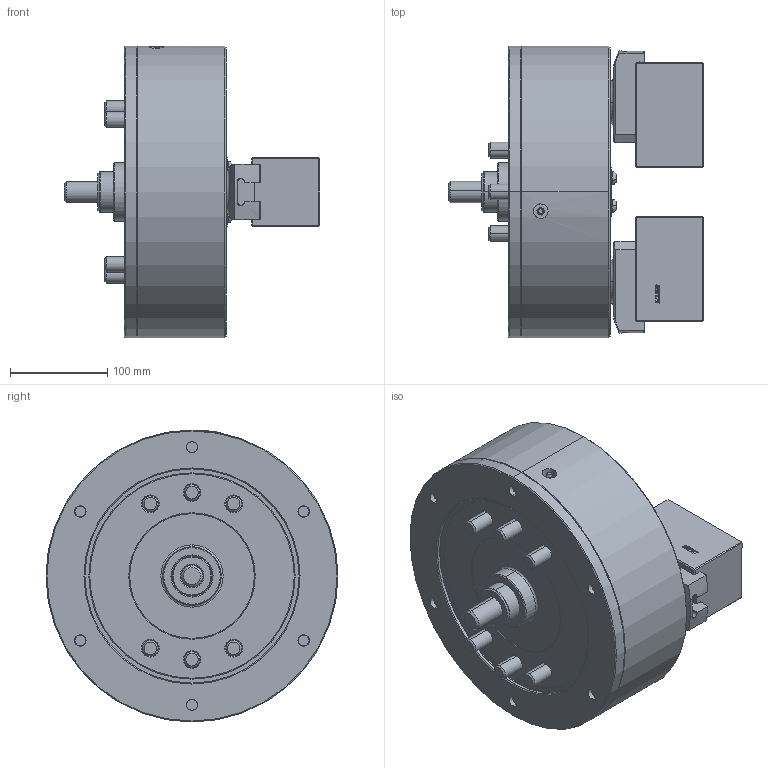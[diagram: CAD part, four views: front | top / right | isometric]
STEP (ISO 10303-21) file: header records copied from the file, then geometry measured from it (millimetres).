
FILE_DESCRIPTION (( 'STEP AP214' ), '1' );
FILE_NAME ('PWT12_CL_OD.STEP', '2019-10-23T00:03:02', ( '' ), ( '' ), 'SwSTEP 2.0', 'SolidWorks 2017', '' );
FILE_SCHEMA (( 'AUTOMOTIVE_DESIGN' ));
Length unit declared in the file: millimetre
Products named in the file (5): PWT12_CL_OD; 結合_OD; 0030116025; 61P332346; 61P420193
Assembly tree (9 placements, depth 2):
  PWT12_CL_OD
    61P420193  x2
    61P332346  x2
    0030116025  x4
    結合_OD
Bounding box: 262.8 x 300 x 300 mm (x, y, z)
Volume: 8453275.9 mm3; surface area: 520457.5 mm2
Topology: 9 solids, 10 shells, 1667 faces, 4082 edges, 2552 vertices
Faces by surface type: plane 879, cone 271, bspline 233, cylinder 230, torus 54
Entity records: 48722 total; most frequent: CARTESIAN_POINT 16898, ORIENTED_EDGE 6820, DIRECTION 5955, EDGE_CURVE 3410, VERTEX_POINT 2147, VECTOR 2013, LINE 2013, AXIS2_PLACEMENT_3D 1971
